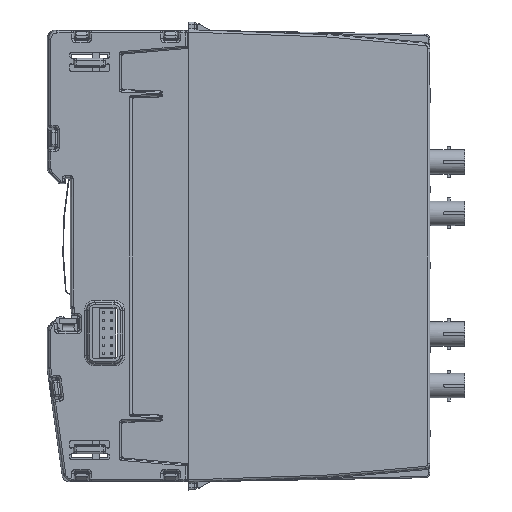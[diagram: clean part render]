
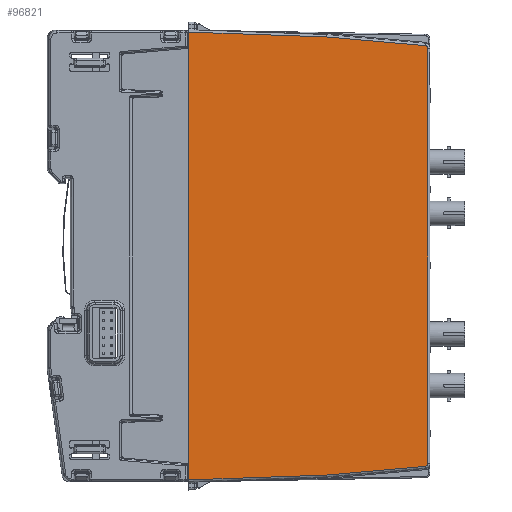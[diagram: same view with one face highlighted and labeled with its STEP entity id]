
A CAD part, left-side view. The second image highlights one B-rep face of the part: STEP entity #96821.
In plain terms, the highlighted planar face has unit normal (-1, -0.018, 0).
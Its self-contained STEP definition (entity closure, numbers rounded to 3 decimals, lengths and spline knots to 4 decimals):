
#6367=ELLIPSE('',#104117,0.0315,0.0315);
#6368=ELLIPSE('',#104118,0.0315,0.0315);
#10674=FACE_OUTER_BOUND('',#16181,.T.);
#16181=EDGE_LOOP('',(#74111,#74112,#74113,#74114,#74115,#74116,#74117,#74118,
#74119,#74120));
#23558=LINE('',#164297,#32495);
#23559=LINE('',#164301,#32496);
#23560=LINE('',#164303,#32497);
#23561=LINE('',#164305,#32498);
#23562=LINE('',#164307,#32499);
#23563=LINE('',#164309,#32500);
#23564=LINE('',#164313,#32501);
#23565=LINE('',#164316,#32502);
#32495=VECTOR('',#122680,39.3701);
#32496=VECTOR('',#122685,39.3701);
#32497=VECTOR('',#122686,39.3701);
#32498=VECTOR('',#122687,39.3701);
#32499=VECTOR('',#122688,39.3701);
#32500=VECTOR('',#122689,39.3701);
#32501=VECTOR('',#122692,39.3701);
#32502=VECTOR('',#122695,39.3701);
#41567=VERTEX_POINT('',#164294);
#41568=VERTEX_POINT('',#164296);
#41569=VERTEX_POINT('',#164300);
#41570=VERTEX_POINT('',#164302);
#41571=VERTEX_POINT('',#164304);
#41572=VERTEX_POINT('',#164306);
#41573=VERTEX_POINT('',#164308);
#41574=VERTEX_POINT('',#164310);
#41575=VERTEX_POINT('',#164312);
#41576=VERTEX_POINT('',#164314);
#53064=EDGE_CURVE('',#41568,#41567,#23558,.T.);
#53066=EDGE_CURVE('',#41567,#41569,#23559,.T.);
#53067=EDGE_CURVE('',#41570,#41569,#23560,.T.);
#53068=EDGE_CURVE('',#41570,#41571,#23561,.T.);
#53069=EDGE_CURVE('',#41571,#41572,#23562,.T.);
#53070=EDGE_CURVE('',#41572,#41573,#23563,.T.);
#53071=EDGE_CURVE('',#41573,#41574,#6367,.T.);
#53072=EDGE_CURVE('',#41574,#41575,#23564,.T.);
#53073=EDGE_CURVE('',#41575,#41576,#6368,.T.);
#53074=EDGE_CURVE('',#41576,#41568,#23565,.T.);
#74111=ORIENTED_EDGE('',*,*,#53064,.T.);
#74112=ORIENTED_EDGE('',*,*,#53066,.T.);
#74113=ORIENTED_EDGE('',*,*,#53067,.F.);
#74114=ORIENTED_EDGE('',*,*,#53068,.T.);
#74115=ORIENTED_EDGE('',*,*,#53069,.T.);
#74116=ORIENTED_EDGE('',*,*,#53070,.T.);
#74117=ORIENTED_EDGE('',*,*,#53071,.T.);
#74118=ORIENTED_EDGE('',*,*,#53072,.T.);
#74119=ORIENTED_EDGE('',*,*,#53073,.T.);
#74120=ORIENTED_EDGE('',*,*,#53074,.T.);
#87433=PLANE('',#104116);
#96821=ADVANCED_FACE('',(#10674),#87433,.T.);
#104116=AXIS2_PLACEMENT_3D('',#164299,#122683,#122684);
#104117=AXIS2_PLACEMENT_3D('',#164311,#122690,#122691);
#104118=AXIS2_PLACEMENT_3D('',#164315,#122693,#122694);
#122680=DIRECTION('',(-0.017,0.999,0.035));
#122683=DIRECTION('center_axis',(-1.,-0.017,
0.));
#122684=DIRECTION('ref_axis',(-0.017,1.,0.));
#122685=DIRECTION('',(0.,0.,-1.));
#122686=DIRECTION('',(0.,0.,1.));
#122687=DIRECTION('',(0.,0.,-1.));
#122688=DIRECTION('',(0.017,-0.999,0.035));
#122689=DIRECTION('',(0.017,-0.996,0.087));
#122690=DIRECTION('center_axis',(-1.,-0.017,
0.));
#122691=DIRECTION('ref_axis',(0.017,-1.,0.));
#122692=DIRECTION('',(0.,0.,1.));
#122693=DIRECTION('center_axis',(-1.,-0.017,
0.));
#122694=DIRECTION('ref_axis',(0.017,-1.,0.));
#122695=DIRECTION('',(-0.017,0.996,0.087));
#164294=CARTESIAN_POINT('',(-0.0227,-0.8686,0.1083));
#164296=CARTESIAN_POINT('',(0.0007,-2.2063,0.0616));
#164297=CARTESIAN_POINT('',(-0.0282,-0.5512,0.1194));
#164299=CARTESIAN_POINT('Origin',(-0.0295,-0.4749,
-2.0669));
#164300=CARTESIAN_POINT('',(-0.0227,-0.8686,-0.0312));
#164301=CARTESIAN_POINT('',(-0.0227,-0.8686,0.128));
#164302=CARTESIAN_POINT('',(-0.0227,-0.8686,-4.1027));
#164303=CARTESIAN_POINT('',(-0.0227,-0.8686,-7.5932));
#164304=CARTESIAN_POINT('',(-0.0227,-0.8686,-4.2421));
#164305=CARTESIAN_POINT('',(-0.0227,-0.8686,0.128));
#164306=CARTESIAN_POINT('',(0.0007,-2.2063,-4.1954));
#164307=CARTESIAN_POINT('',(-0.0282,-0.5512,-4.2532));
#164308=CARTESIAN_POINT('',(0.0174,-3.163,-4.1117));
#164309=CARTESIAN_POINT('',(-0.0261,-0.6728,-4.3296));
#164310=CARTESIAN_POINT('',(0.0179,-3.1918,-4.0803));
#164311=CARTESIAN_POINT('Origin',(0.0173,-3.1603,
-4.0803));
#164312=CARTESIAN_POINT('',(0.0179,-3.1918,-0.0535));
#164313=CARTESIAN_POINT('',(0.0179,-3.1918,-0.0535));
#164314=CARTESIAN_POINT('',(0.0174,-3.163,-0.0221));
#164315=CARTESIAN_POINT('Origin',(0.0173,-3.1603,
-0.0535));
#164316=CARTESIAN_POINT('',(-0.0261,-0.6728,0.1957));
